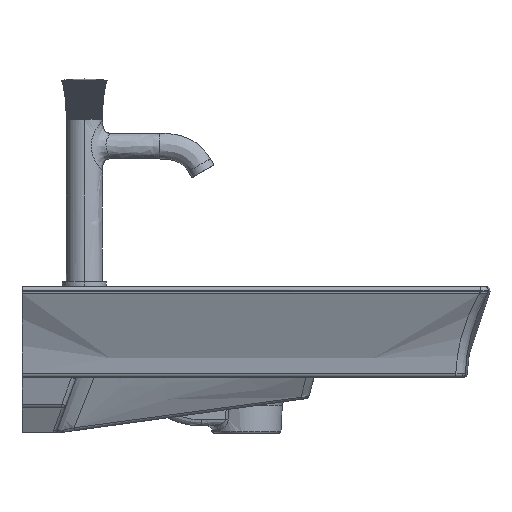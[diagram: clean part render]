
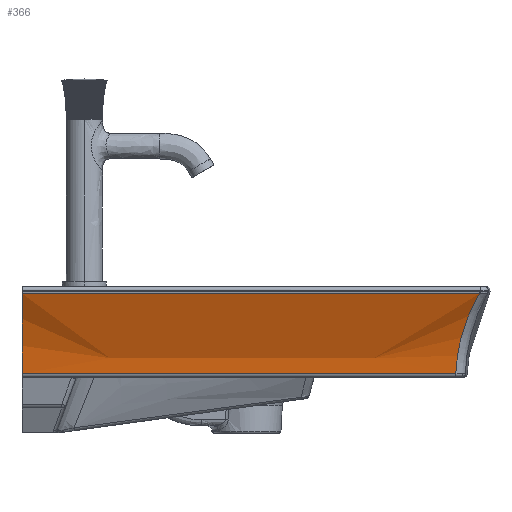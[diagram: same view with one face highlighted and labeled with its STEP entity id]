
A CAD part, left-side view. The second image highlights one B-rep face of the part: STEP entity #366.
In plain terms, the highlighted free-form (B-spline) face has degree [5, 5] with [6, 9] control points.
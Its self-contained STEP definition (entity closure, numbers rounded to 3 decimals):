
#366=ADVANCED_FACE('',(#1926),#22052,.T.);
#1926=FACE_OUTER_BOUND('',#3491,.T.);
#3491=EDGE_LOOP('',(#6167,#6168,#6169,#6170));
#6167=ORIENTED_EDGE('',*,*,#12941,.F.);
#6168=ORIENTED_EDGE('',*,*,#12942,.F.);
#6169=ORIENTED_EDGE('',*,*,#13046,.F.);
#6170=ORIENTED_EDGE('',*,*,#12940,.F.);
#12940=EDGE_CURVE('',#19925,#20151,#17463,.T.);
#12941=EDGE_CURVE('',#19924,#19925,#17464,.T.);
#12942=EDGE_CURVE('',#20152,#19924,#17465,.T.);
#13046=EDGE_CURVE('',#20151,#20152,#17537,.T.);
#17463=B_SPLINE_CURVE_WITH_KNOTS('',5,(#55276,#55277,#55278,#55279,#55280,
#55281),.UNSPECIFIED.,.F.,.F.,(6,6),(-234.711,241.989),
 .UNSPECIFIED.);
#17464=B_SPLINE_CURVE_WITH_KNOTS('',3,(#55282,#55283,#55284,#55285,#55286,
#55287,#55288,#55289,#55290,#55291,#55292,#55293),.UNSPECIFIED.,.F.,.F.,
(4,2,2,2,2,4),(29.365,61.474,93.597,125.732,
141.759,157.786),.UNSPECIFIED.);
#17465=B_SPLINE_CURVE_WITH_KNOTS('',5,(#55294,#55295,#55296,#55297,#55298,
#55299),.UNSPECIFIED.,.F.,.F.,(6,6),(-240.075,239.248),
 .UNSPECIFIED.);
#17537=B_SPLINE_CURVE_WITH_KNOTS('',5,(#55907,#55908,#55909,#55910,#55911,
#55912,#55913,#55914,#55915),.UNSPECIFIED.,.F.,.F.,(6,3,6),(-91.382,
-74.638,-1.16),.UNSPECIFIED.);
#19924=VERTEX_POINT('',#50205);
#19925=VERTEX_POINT('',#50206);
#20151=VERTEX_POINT('',#50432);
#20152=VERTEX_POINT('',#50433);
#22052=B_SPLINE_SURFACE_WITH_KNOTS('',5,5,((#47585,#47586,#47587,#47588,
#47589,#47590,#47591,#47592,#47593),(#47594,#47595,#47596,#47597,#47598,
#47599,#47600,#47601,#47602),(#47603,#47604,#47605,#47606,#47607,#47608,
#47609,#47610,#47611),(#47612,#47613,#47614,#47615,#47616,#47617,#47618,
#47619,#47620),(#47621,#47622,#47623,#47624,#47625,#47626,#47627,#47628,
#47629),(#47630,#47631,#47632,#47633,#47634,#47635,#47636,#47637,#47638)),
 .UNSPECIFIED.,.F.,.F.,.F.,(6,6),(6,3,6),(0.,488.),(0.,74.638,95.17),
 .UNSPECIFIED.);
#47585=CARTESIAN_POINT('',(-528.127,-243.,69.662));
#47586=CARTESIAN_POINT('',(-520.203,-239.23,57.219));
#47587=CARTESIAN_POINT('',(-513.554,-235.46,43.964));
#47588=CARTESIAN_POINT('',(-508.288,-231.689,30.068));
#47589=CARTESIAN_POINT('',(-503.439,-226.879,11.786));
#47590=CARTESIAN_POINT('',(-501.017,-222.069,-6.873));
#47591=CARTESIAN_POINT('',(-500.631,-221.076,-10.737));
#47592=CARTESIAN_POINT('',(-500.328,-220.038,-14.785));
#47593=CARTESIAN_POINT('',(-500.127,-219.,-18.838));
#47594=CARTESIAN_POINT('',(-528.127,-145.4,69.662));
#47595=CARTESIAN_POINT('',(-520.203,-142.384,57.219));
#47596=CARTESIAN_POINT('',(-513.554,-139.368,43.964));
#47597=CARTESIAN_POINT('',(-508.288,-136.351,30.068));
#47598=CARTESIAN_POINT('',(-503.439,-132.503,11.786));
#47599=CARTESIAN_POINT('',(-501.017,-128.655,-6.873));
#47600=CARTESIAN_POINT('',(-500.631,-127.861,-10.737));
#47601=CARTESIAN_POINT('',(-500.328,-127.03,-14.785));
#47602=CARTESIAN_POINT('',(-500.127,-126.2,-18.838));
#47603=CARTESIAN_POINT('',(-528.127,-47.8,69.662));
#47604=CARTESIAN_POINT('',(-520.203,-45.538,57.219));
#47605=CARTESIAN_POINT('',(-513.554,-43.276,43.964));
#47606=CARTESIAN_POINT('',(-508.288,-41.013,30.068));
#47607=CARTESIAN_POINT('',(-503.439,-38.127,11.786));
#47608=CARTESIAN_POINT('',(-501.017,-35.241,-6.873));
#47609=CARTESIAN_POINT('',(-500.631,-34.646,-10.737));
#47610=CARTESIAN_POINT('',(-500.328,-34.023,-14.785));
#47611=CARTESIAN_POINT('',(-500.127,-33.4,-18.838));
#47612=CARTESIAN_POINT('',(-528.127,49.8,69.662));
#47613=CARTESIAN_POINT('',(-520.203,51.308,57.219));
#47614=CARTESIAN_POINT('',(-513.554,52.816,43.964));
#47615=CARTESIAN_POINT('',(-508.288,54.324,30.068));
#47616=CARTESIAN_POINT('',(-503.439,56.248,11.786));
#47617=CARTESIAN_POINT('',(-501.017,58.173,-6.873));
#47618=CARTESIAN_POINT('',(-500.631,58.57,-10.737));
#47619=CARTESIAN_POINT('',(-500.328,58.985,-14.785));
#47620=CARTESIAN_POINT('',(-500.127,59.4,-18.838));
#47621=CARTESIAN_POINT('',(-528.127,147.4,69.662));
#47622=CARTESIAN_POINT('',(-520.203,148.154,57.219));
#47623=CARTESIAN_POINT('',(-513.554,148.908,43.964));
#47624=CARTESIAN_POINT('',(-508.288,149.662,30.068));
#47625=CARTESIAN_POINT('',(-503.439,150.624,11.786));
#47626=CARTESIAN_POINT('',(-501.017,151.586,-6.873));
#47627=CARTESIAN_POINT('',(-500.631,151.785,-10.737));
#47628=CARTESIAN_POINT('',(-500.328,151.992,-14.785));
#47629=CARTESIAN_POINT('',(-500.127,152.2,-18.838));
#47630=CARTESIAN_POINT('',(-528.127,245.,69.662));
#47631=CARTESIAN_POINT('',(-520.203,245.,57.219));
#47632=CARTESIAN_POINT('',(-513.554,245.,43.964));
#47633=CARTESIAN_POINT('',(-508.288,245.,30.068));
#47634=CARTESIAN_POINT('',(-503.439,245.,11.786));
#47635=CARTESIAN_POINT('',(-501.017,245.,-6.873));
#47636=CARTESIAN_POINT('',(-500.631,245.,-10.737));
#47637=CARTESIAN_POINT('',(-500.328,245.,-14.785));
#47638=CARTESIAN_POINT('',(-500.127,245.,-18.838));
#50205=CARTESIAN_POINT('',(-527.515,-234.035,68.694));
#50206=CARTESIAN_POINT('',(-500.346,-209.188,-15.11));
#50432=CARTESIAN_POINT('',(-500.346,245.,-15.11));
#50433=CARTESIAN_POINT('',(-527.515,245.,68.694));
#55276=CARTESIAN_POINT('',(-500.346,-209.188,-15.11));
#55277=CARTESIAN_POINT('',(-500.346,-118.351,-15.11));
#55278=CARTESIAN_POINT('',(-500.346,-27.513,-15.11));
#55279=CARTESIAN_POINT('',(-500.346,63.325,-15.11));
#55280=CARTESIAN_POINT('',(-500.346,154.162,-15.11));
#55281=CARTESIAN_POINT('',(-500.346,245.,-15.11));
#55282=CARTESIAN_POINT('',(-527.515,-234.035,68.694));
#55283=CARTESIAN_POINT('',(-523.639,-230.354,62.52));
#55284=CARTESIAN_POINT('',(-520.114,-227.011,56.079));
#55285=CARTESIAN_POINT('',(-513.804,-221.065,42.612));
#55286=CARTESIAN_POINT('',(-511.062,-218.502,35.679));
#55287=CARTESIAN_POINT('',(-506.42,-214.233,21.372));
#55288=CARTESIAN_POINT('',(-504.561,-212.565,14.124));
#55289=CARTESIAN_POINT('',(-502.452,-210.76,3.086));
#55290=CARTESIAN_POINT('',(-501.866,-210.278,-0.604));
#55291=CARTESIAN_POINT('',(-500.937,-209.56,-7.89));
#55292=CARTESIAN_POINT('',(-500.594,-209.323,-11.473));
#55293=CARTESIAN_POINT('',(-500.346,-209.188,-15.11));
#55294=CARTESIAN_POINT('',(-527.515,245.,68.694));
#55295=CARTESIAN_POINT('',(-527.515,149.193,68.694));
#55296=CARTESIAN_POINT('',(-527.515,53.386,68.694));
#55297=CARTESIAN_POINT('',(-527.515,-42.421,68.694));
#55298=CARTESIAN_POINT('',(-527.515,-138.228,68.694));
#55299=CARTESIAN_POINT('',(-527.515,-234.035,68.694));
#55907=CARTESIAN_POINT('',(-500.346,245.,-15.11));
#55908=CARTESIAN_POINT('',(-500.57,245.,-11.827));
#55909=CARTESIAN_POINT('',(-500.858,245.,-8.583));
#55910=CARTESIAN_POINT('',(-501.214,245.,-5.388));
#55911=CARTESIAN_POINT('',(-503.601,245.,12.287));
#55912=CARTESIAN_POINT('',(-508.171,245.,29.623));
#55913=CARTESIAN_POINT('',(-513.31,245.,43.316));
#55914=CARTESIAN_POINT('',(-519.792,245.,56.394));
#55915=CARTESIAN_POINT('',(-527.515,245.,68.694));
